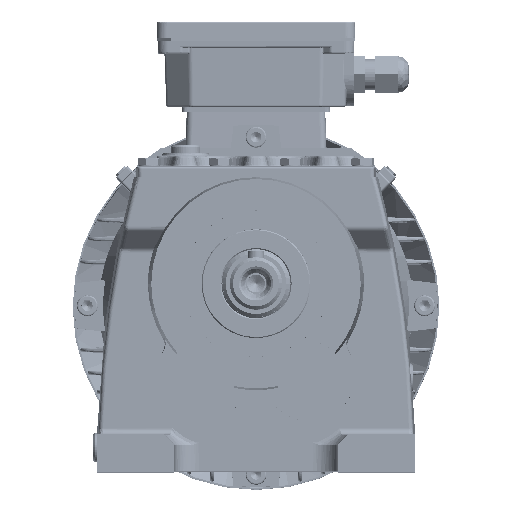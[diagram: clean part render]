
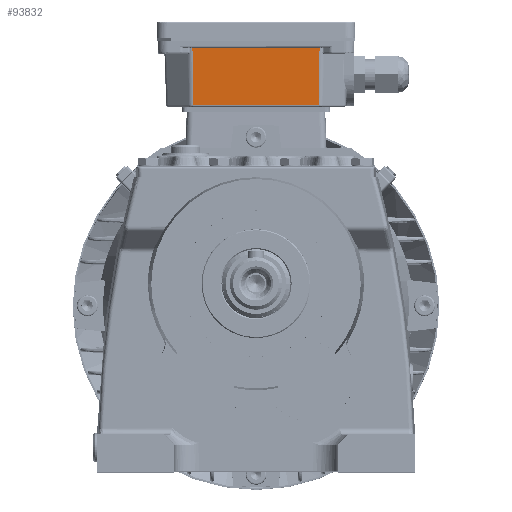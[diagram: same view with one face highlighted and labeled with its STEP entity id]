
A CAD part, top view. The second image highlights one B-rep face of the part: STEP entity #93832.
In plain terms, the highlighted planar face has unit normal (0, -0.035, 0.999) as drawn and (0, 0.035, -0.999) by its records, which use the part's own axes.
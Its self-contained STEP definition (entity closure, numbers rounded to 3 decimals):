
#39187 = EDGE_CURVE ( 'NONE', #127719, #127632, #51439, .T. ) ;
#39228 = EDGE_CURVE ( 'NONE', #127632, #127475, #51556, .T. ) ;
#39404 = EDGE_CURVE ( 'NONE', #127475, #127804, #51653, .T. ) ;
#39966 = EDGE_CURVE ( 'NONE', #127804, #127719, #175880, .T. ) ;
#47487 = AXIS2_PLACEMENT_3D ( 'NONE', #51471, #51496, #51465 ) ;
#50748 = FACE_OUTER_BOUND ( 'NONE', #160170, .T. ) ;
#51433 = PLANE ( 'NONE',  #47487 ) ;
#51439 = LINE ( 'NONE', #157567, #51441 ) ;
#51441 = VECTOR ( 'NONE', #157614, 1000. ) ;
#51465 = DIRECTION ( 'NONE',  ( 0., -0.999, -0.035 ) ) ;
#51471 = CARTESIAN_POINT ( 'NONE',  ( 0., -128.43, 97.001 ) ) ;
#51483 = VECTOR ( 'NONE', #157721, 1000. ) ;
#51496 = DIRECTION ( 'NONE',  ( 0., -0.035, 0.999 ) ) ;
#51556 = LINE ( 'NONE', #157718, #51483 ) ;
#51593 = VECTOR ( 'NONE', #158974, 1000. ) ;
#51653 = LINE ( 'NONE', #158967, #51593 ) ;
#71050 = ORIENTED_EDGE ( 'NONE', *, *, #39404, .F. ) ;
#71106 = ORIENTED_EDGE ( 'NONE', *, *, #39187, .F. ) ;
#71163 = ORIENTED_EDGE ( 'NONE', *, *, #39966, .F. ) ;
#71244 = ORIENTED_EDGE ( 'NONE', *, *, #39228, .F. ) ;
#93832 = ADVANCED_FACE ( 'NONE', ( #50748 ), #51433, .F. ) ;
#127475 = VERTEX_POINT ( 'NONE', #156118 ) ;
#127632 = VERTEX_POINT ( 'NONE', #156126 ) ;
#127719 = VERTEX_POINT ( 'NONE', #156301 ) ;
#127804 = VERTEX_POINT ( 'NONE', #156419 ) ;
#156118 = CARTESIAN_POINT ( 'NONE',  ( -29.944, -95.724, 98.143 ) ) ;
#156126 = CARTESIAN_POINT ( 'NONE',  ( 29.944, -95.724, 98.143 ) ) ;
#156301 = CARTESIAN_POINT ( 'NONE',  ( 30.339, -123.017, 97.19 ) ) ;
#156419 = CARTESIAN_POINT ( 'NONE',  ( -30.339, -123.017, 97.19 ) ) ;
#157567 = CARTESIAN_POINT ( 'NONE',  ( 30.416, -128.348, 97.004 ) ) ;
#157614 = DIRECTION ( 'NONE',  ( -0.014, 0.999, 0.035 ) ) ;
#157718 = CARTESIAN_POINT ( 'NONE',  ( 0., -95.724, 98.143 ) ) ;
#157721 = DIRECTION ( 'NONE',  ( -1., 0., 0. ) ) ;
#158967 = CARTESIAN_POINT ( 'NONE',  ( -29.944, -95.724, 98.143 ) ) ;
#158974 = DIRECTION ( 'NONE',  ( -0.014, -0.999, -0.035 ) ) ;
#160170 = EDGE_LOOP ( 'NONE', ( #71050, #71244, #71106, #71163 ) ) ;
#171161 = DIRECTION ( 'NONE',  ( 1., 0., 0. ) ) ;
#171198 = CARTESIAN_POINT ( 'NONE',  ( 0., -123.017, 97.19 ) ) ;
#175778 = VECTOR ( 'NONE', #171161, 1000. ) ;
#175880 = LINE ( 'NONE', #171198, #175778 ) ;
